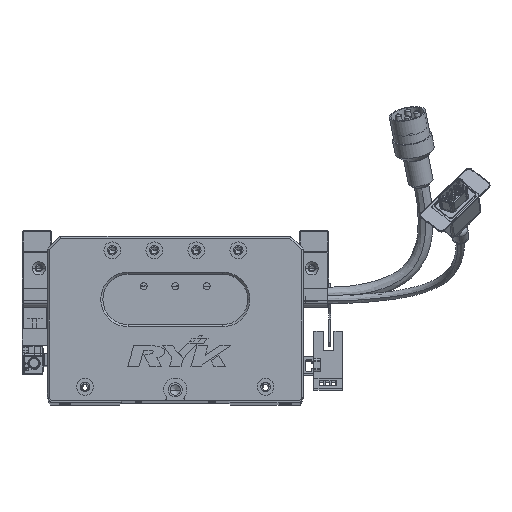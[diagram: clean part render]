
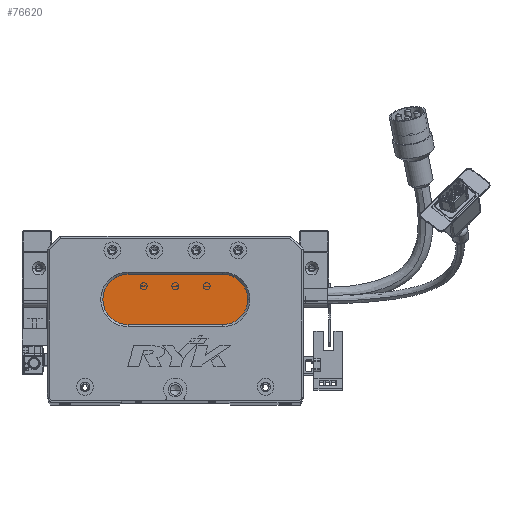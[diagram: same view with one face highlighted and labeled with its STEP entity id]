
A CAD part, top view. The second image highlights one B-rep face of the part: STEP entity #76620.
In plain terms, the highlighted planar face has unit normal (0, 0, 1) as drawn and (0, 0, -1) by its records, which use the part's own axes.
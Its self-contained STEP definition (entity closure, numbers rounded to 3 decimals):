
#4891 = VECTOR ( 'NONE', #41817, 1000. ) ;
#5569 = AXIS2_PLACEMENT_3D ( 'NONE', #22177, #34463, #16487 ) ;
#5962 = CARTESIAN_POINT ( 'NONE',  ( 83.5, 48., 13. ) ) ;
#5966 = EDGE_CURVE ( 'NONE', #64075, #22993, #51188, .T. ) ;
#6390 = EDGE_LOOP ( 'NONE', ( #39271, #63411, #7511, #72037, #41828 ) ) ;
#7511 = ORIENTED_EDGE ( 'NONE', *, *, #49289, .T. ) ;
#8558 = CARTESIAN_POINT ( 'NONE',  ( 38.5, 48., 13. ) ) ;
#9031 = CIRCLE ( 'NONE', #49567, 12. ) ;
#9293 = FACE_OUTER_BOUND ( 'NONE', #6390, .T. ) ;
#10956 = AXIS2_PLACEMENT_3D ( 'NONE', #8558, #20492, #62285 ) ;
#14868 = CARTESIAN_POINT ( 'NONE',  ( 38.5, 60., 13. ) ) ;
#14914 = VERTEX_POINT ( 'NONE', #45113 ) ;
#16487 = DIRECTION ( 'NONE',  ( -1., 0., 0. ) ) ;
#19240 = CARTESIAN_POINT ( 'NONE',  ( 38.5, 36., 13. ) ) ;
#20492 = DIRECTION ( 'NONE',  ( 0., 0., -1. ) ) ;
#20701 = DIRECTION ( 'NONE',  ( 0., 0., -1. ) ) ;
#21221 = PLANE ( 'NONE',  #43149 ) ;
#21578 = EDGE_CURVE ( 'NONE', #24535, #64075, #9031, .T. ) ;
#22177 = CARTESIAN_POINT ( 'NONE',  ( 38.5, 48., 13. ) ) ;
#22993 = VERTEX_POINT ( 'NONE', #19240 ) ;
#24535 = VERTEX_POINT ( 'NONE', #40198 ) ;
#25117 = VERTEX_POINT ( 'NONE', #14868 ) ;
#28195 = CARTESIAN_POINT ( 'NONE',  ( 83.5, 60., 13. ) ) ;
#34463 = DIRECTION ( 'NONE',  ( 0., 0., -1. ) ) ;
#38720 = CARTESIAN_POINT ( 'NONE',  ( 83.5, 36., 13. ) ) ;
#39271 = ORIENTED_EDGE ( 'NONE', *, *, #21578, .T. ) ;
#40198 = CARTESIAN_POINT ( 'NONE',  ( 83.5, 60., 13. ) ) ;
#41817 = DIRECTION ( 'NONE',  ( 1., 0., 0. ) ) ;
#41828 = ORIENTED_EDGE ( 'NONE', *, *, #53106, .T. ) ;
#41889 = EDGE_CURVE ( 'NONE', #14914, #25117, #64976, .T. ) ;
#43149 = AXIS2_PLACEMENT_3D ( 'NONE', #51262, #20701, #44432 ) ;
#43300 = CARTESIAN_POINT ( 'NONE',  ( 83.5, 36., 13. ) ) ;
#43407 = DIRECTION ( 'NONE',  ( -1., 0., 0. ) ) ;
#44432 = DIRECTION ( 'NONE',  ( -1., 0., 0. ) ) ;
#45113 = CARTESIAN_POINT ( 'NONE',  ( 26.5, 48., 13. ) ) ;
#49289 = EDGE_CURVE ( 'NONE', #22993, #14914, #64297, .T. ) ;
#49567 = AXIS2_PLACEMENT_3D ( 'NONE', #5962, #59667, #77393 ) ;
#51188 = LINE ( 'NONE', #38720, #57708 ) ;
#51262 = CARTESIAN_POINT ( 'NONE',  ( 83.5, 48., 13. ) ) ;
#53106 = EDGE_CURVE ( 'NONE', #25117, #24535, #64609, .T. ) ;
#57708 = VECTOR ( 'NONE', #43407, 1000. ) ;
#59667 = DIRECTION ( 'NONE',  ( 0., 0., -1. ) ) ;
#62285 = DIRECTION ( 'NONE',  ( -1., 0., 0. ) ) ;
#63411 = ORIENTED_EDGE ( 'NONE', *, *, #5966, .T. ) ;
#64075 = VERTEX_POINT ( 'NONE', #43300 ) ;
#64297 = CIRCLE ( 'NONE', #10956, 12. ) ;
#64609 = LINE ( 'NONE', #28195, #4891 ) ;
#64976 = CIRCLE ( 'NONE', #5569, 12. ) ;
#72037 = ORIENTED_EDGE ( 'NONE', *, *, #41889, .T. ) ;
#76620 = ADVANCED_FACE ( 'NONE', ( #9293 ), #21221, .T. ) ;
#77393 = DIRECTION ( 'NONE',  ( -1., 0., 0. ) ) ;
